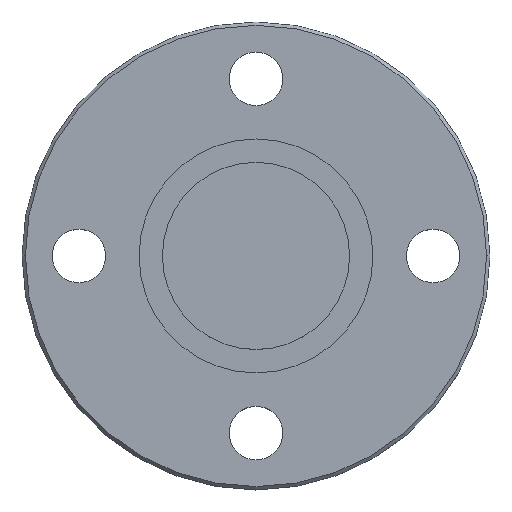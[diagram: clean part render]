
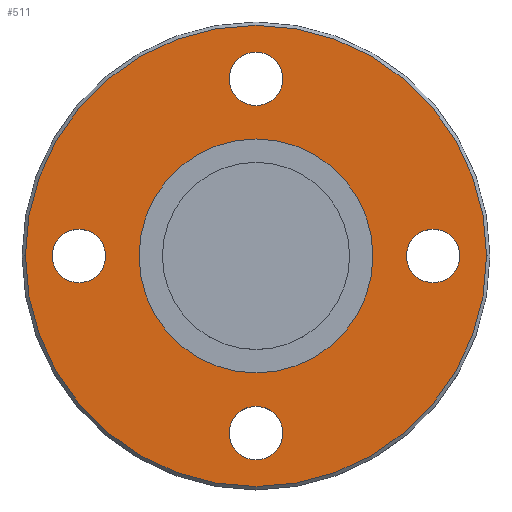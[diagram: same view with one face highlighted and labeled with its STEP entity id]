
A CAD part, top view. The second image highlights one B-rep face of the part: STEP entity #511.
In plain terms, the highlighted planar face has unit normal (0, 0, 1).
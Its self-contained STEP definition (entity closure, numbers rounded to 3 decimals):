
#17 = EDGE_LOOP ( 'NONE', ( #540, #292 ) ) ;
#18 = VERTEX_POINT ( 'NONE', #417 ) ;
#19 = DIRECTION ( 'NONE',  ( 0., 0., 1. ) ) ;
#20 = EDGE_LOOP ( 'NONE', ( #559, #136 ) ) ;
#23 = DIRECTION ( 'NONE',  ( 0., 0., 1. ) ) ;
#33 = CARTESIAN_POINT ( 'NONE',  ( -4., -26.5, 10. ) ) ;
#46 = CIRCLE ( 'NONE', #555, 4. ) ;
#47 = AXIS2_PLACEMENT_3D ( 'NONE', #686, #529, #653 ) ;
#53 = VERTEX_POINT ( 'NONE', #250 ) ;
#63 = AXIS2_PLACEMENT_3D ( 'NONE', #318, #23, #210 ) ;
#66 = FACE_OUTER_BOUND ( 'NONE', #335, .T. ) ;
#77 = FACE_BOUND ( 'NONE', #17, .T. ) ;
#93 = CARTESIAN_POINT ( 'NONE',  ( -34.5, 0., 10. ) ) ;
#109 = DIRECTION ( 'NONE',  ( 0., 0., 1. ) ) ;
#118 = EDGE_CURVE ( 'NONE', #18, #682, #640, .T. ) ;
#131 = CARTESIAN_POINT ( 'NONE',  ( 26.5, 0., 10. ) ) ;
#135 = DIRECTION ( 'NONE',  ( 1., 0., 0. ) ) ;
#136 = ORIENTED_EDGE ( 'NONE', *, *, #721, .F. ) ;
#143 = VERTEX_POINT ( 'NONE', #484 ) ;
#165 = CARTESIAN_POINT ( 'NONE',  ( -26.5, 0., 10. ) ) ;
#166 = CIRCLE ( 'NONE', #490, 17.5 ) ;
#173 = ORIENTED_EDGE ( 'NONE', *, *, #118, .F. ) ;
#176 = DIRECTION ( 'NONE',  ( 1., 0., 0. ) ) ;
#178 = ORIENTED_EDGE ( 'NONE', *, *, #306, .F. ) ;
#179 = CARTESIAN_POINT ( 'NONE',  ( 0., 0., 10. ) ) ;
#183 = ORIENTED_EDGE ( 'NONE', *, *, #418, .F. ) ;
#189 = ORIENTED_EDGE ( 'NONE', *, *, #445, .F. ) ;
#193 = ORIENTED_EDGE ( 'NONE', *, *, #500, .T. ) ;
#202 = AXIS2_PLACEMENT_3D ( 'NONE', #581, #293, #675 ) ;
#207 = CARTESIAN_POINT ( 'NONE',  ( 26.5, -4., 10. ) ) ;
#210 = DIRECTION ( 'NONE',  ( 1., 0., 0. ) ) ;
#211 = CIRCLE ( 'NONE', #339, 34.5 ) ;
#216 = DIRECTION ( 'NONE',  ( 0., -1., 0. ) ) ;
#224 = DIRECTION ( 'NONE',  ( 1., 0., 0. ) ) ;
#225 = CIRCLE ( 'NONE', #423, 17.5 ) ;
#250 = CARTESIAN_POINT ( 'NONE',  ( 4., -26.5, 10. ) ) ;
#251 = EDGE_CURVE ( 'NONE', #678, #143, #211, .T. ) ;
#252 = VERTEX_POINT ( 'NONE', #613 ) ;
#277 = DIRECTION ( 'NONE',  ( 0., 1., 0. ) ) ;
#278 = CIRCLE ( 'NONE', #677, 4. ) ;
#280 = CARTESIAN_POINT ( 'NONE',  ( 0., 0., 10. ) ) ;
#282 = EDGE_CURVE ( 'NONE', #615, #53, #406, .T. ) ;
#284 = VERTEX_POINT ( 'NONE', #503 ) ;
#292 = ORIENTED_EDGE ( 'NONE', *, *, #343, .F. ) ;
#293 = DIRECTION ( 'NONE',  ( 0., 0., 1. ) ) ;
#298 = PLANE ( 'NONE',  #47 ) ;
#300 = CIRCLE ( 'NONE', #704, 34.5 ) ;
#306 = EDGE_CURVE ( 'NONE', #415, #514, #519, .T. ) ;
#318 = CARTESIAN_POINT ( 'NONE',  ( 0., 26.5, 10. ) ) ;
#320 = EDGE_CURVE ( 'NONE', #284, #472, #278, .T. ) ;
#335 = EDGE_LOOP ( 'NONE', ( #468, #193 ) ) ;
#338 = ORIENTED_EDGE ( 'NONE', *, *, #460, .F. ) ;
#339 = AXIS2_PLACEMENT_3D ( 'NONE', #280, #612, #224 ) ;
#343 = EDGE_CURVE ( 'NONE', #53, #615, #46, .T. ) ;
#346 = DIRECTION ( 'NONE',  ( 0., 0., 1. ) ) ;
#351 = FACE_BOUND ( 'NONE', #565, .T. ) ;
#356 = DIRECTION ( 'NONE',  ( 0., 0., 1. ) ) ;
#361 = DIRECTION ( 'NONE',  ( 0., 0., 1. ) ) ;
#363 = CIRCLE ( 'NONE', #396, 4. ) ;
#377 = CIRCLE ( 'NONE', #202, 4. ) ;
#391 = DIRECTION ( 'NONE',  ( -1., 0., 0. ) ) ;
#396 = AXIS2_PLACEMENT_3D ( 'NONE', #131, #361, #421 ) ;
#397 = DIRECTION ( 'NONE',  ( 0., 0., 1. ) ) ;
#401 = CARTESIAN_POINT ( 'NONE',  ( 0., -26.5, 10. ) ) ;
#406 = CIRCLE ( 'NONE', #499, 4. ) ;
#408 = FACE_BOUND ( 'NONE', #20, .T. ) ;
#415 = VERTEX_POINT ( 'NONE', #564 ) ;
#417 = CARTESIAN_POINT ( 'NONE',  ( -4., 26.5, 10. ) ) ;
#418 = EDGE_CURVE ( 'NONE', #514, #415, #363, .T. ) ;
#419 = CIRCLE ( 'NONE', #475, 4. ) ;
#421 = DIRECTION ( 'NONE',  ( 0., -1., 0. ) ) ;
#423 = AXIS2_PLACEMENT_3D ( 'NONE', #465, #356, #576 ) ;
#426 = CARTESIAN_POINT ( 'NONE',  ( 17.5, 0., 10. ) ) ;
#441 = EDGE_LOOP ( 'NONE', ( #189, #338 ) ) ;
#443 = CARTESIAN_POINT ( 'NONE',  ( 4., 26.5, 10. ) ) ;
#445 = EDGE_CURVE ( 'NONE', #476, #252, #166, .T. ) ;
#451 = DIRECTION ( 'NONE',  ( 0., 0., 1. ) ) ;
#458 = CARTESIAN_POINT ( 'NONE',  ( 0., -26.5, 10. ) ) ;
#460 = EDGE_CURVE ( 'NONE', #252, #476, #225, .T. ) ;
#465 = CARTESIAN_POINT ( 'NONE',  ( 0., 0., 10. ) ) ;
#468 = ORIENTED_EDGE ( 'NONE', *, *, #251, .T. ) ;
#472 = VERTEX_POINT ( 'NONE', #572 ) ;
#473 = FACE_BOUND ( 'NONE', #625, .T. ) ;
#475 = AXIS2_PLACEMENT_3D ( 'NONE', #549, #346, #727 ) ;
#476 = VERTEX_POINT ( 'NONE', #426 ) ;
#484 = CARTESIAN_POINT ( 'NONE',  ( 34.5, 0., 10. ) ) ;
#490 = AXIS2_PLACEMENT_3D ( 'NONE', #691, #619, #176 ) ;
#499 = AXIS2_PLACEMENT_3D ( 'NONE', #458, #109, #391 ) ;
#500 = EDGE_CURVE ( 'NONE', #143, #678, #300, .T. ) ;
#503 = CARTESIAN_POINT ( 'NONE',  ( -26.5, 4., 10. ) ) ;
#507 = EDGE_CURVE ( 'NONE', #682, #18, #377, .T. ) ;
#511 = ADVANCED_FACE ( 'NONE', ( #408, #77, #351, #473, #567, #66 ), #298, .F. ) ;
#514 = VERTEX_POINT ( 'NONE', #207 ) ;
#519 = CIRCLE ( 'NONE', #614, 4. ) ;
#529 = DIRECTION ( 'NONE',  ( 0., 0., -1. ) ) ;
#540 = ORIENTED_EDGE ( 'NONE', *, *, #282, .F. ) ;
#549 = CARTESIAN_POINT ( 'NONE',  ( -26.5, 0., 10. ) ) ;
#550 = DIRECTION ( 'NONE',  ( -1., 0., 0. ) ) ;
#555 = AXIS2_PLACEMENT_3D ( 'NONE', #401, #451, #550 ) ;
#559 = ORIENTED_EDGE ( 'NONE', *, *, #320, .F. ) ;
#564 = CARTESIAN_POINT ( 'NONE',  ( 26.5, 4., 10. ) ) ;
#565 = EDGE_LOOP ( 'NONE', ( #183, #178 ) ) ;
#567 = FACE_BOUND ( 'NONE', #441, .T. ) ;
#572 = CARTESIAN_POINT ( 'NONE',  ( -26.5, -4., 10. ) ) ;
#576 = DIRECTION ( 'NONE',  ( 1., 0., 0. ) ) ;
#581 = CARTESIAN_POINT ( 'NONE',  ( 0., 26.5, 10. ) ) ;
#612 = DIRECTION ( 'NONE',  ( 0., 0., 1. ) ) ;
#613 = CARTESIAN_POINT ( 'NONE',  ( -17.5, 0., 10. ) ) ;
#614 = AXIS2_PLACEMENT_3D ( 'NONE', #718, #659, #216 ) ;
#615 = VERTEX_POINT ( 'NONE', #33 ) ;
#619 = DIRECTION ( 'NONE',  ( 0., 0., 1. ) ) ;
#625 = EDGE_LOOP ( 'NONE', ( #696, #173 ) ) ;
#640 = CIRCLE ( 'NONE', #63, 4. ) ;
#653 = DIRECTION ( 'NONE',  ( -1., 0., 0. ) ) ;
#659 = DIRECTION ( 'NONE',  ( 0., 0., 1. ) ) ;
#675 = DIRECTION ( 'NONE',  ( 1., 0., 0. ) ) ;
#677 = AXIS2_PLACEMENT_3D ( 'NONE', #165, #397, #277 ) ;
#678 = VERTEX_POINT ( 'NONE', #93 ) ;
#682 = VERTEX_POINT ( 'NONE', #443 ) ;
#686 = CARTESIAN_POINT ( 'NONE',  ( 0., 34.5, 10. ) ) ;
#691 = CARTESIAN_POINT ( 'NONE',  ( 0., 0., 10. ) ) ;
#696 = ORIENTED_EDGE ( 'NONE', *, *, #507, .F. ) ;
#704 = AXIS2_PLACEMENT_3D ( 'NONE', #179, #19, #135 ) ;
#718 = CARTESIAN_POINT ( 'NONE',  ( 26.5, 0., 10. ) ) ;
#721 = EDGE_CURVE ( 'NONE', #472, #284, #419, .T. ) ;
#727 = DIRECTION ( 'NONE',  ( 0., 1., 0. ) ) ;
